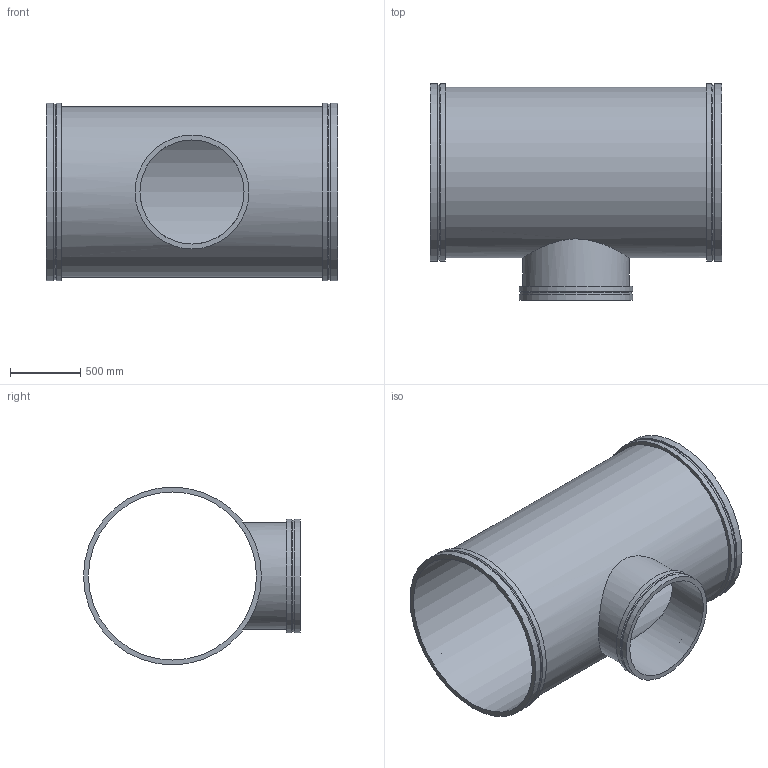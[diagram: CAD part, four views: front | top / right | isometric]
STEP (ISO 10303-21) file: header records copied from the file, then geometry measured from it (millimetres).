
FILE_DESCRIPTION(/* description */ ('VIC REDUCING TEE No W025 VR','CAx-IF Rec.Pracs.---Representation and Presentation of Product Manufacturing Information (PMI)---4.0---2014-10-13'),/* implementation_level */ '2;1');
FILE_NAME(/* name */ 'C:\Users\kkamble\AppData\Roaming\Autodesk\ApplicationPlugins\Back Up\Victaulic_Vic-Ring_Tee Reducing_No W25 VR (AGR)\Victaulic_Vic-Ring_Tee Reducing_No W25 VR (AGR)_48.0x30.0 (1200x750).stp',/* time_stamp */ '2020-09-10T11:57:10+05:00',/* author */ ('mchristi'),/* organization */ ('Victaulic'),/* preprocessor_version */ 'ST-DEVELOPER v17.2',/* originating_system */ 'Autodesk Inventor 2019',/* authorisation */ '');
FILE_SCHEMA (('AP242_MANAGED_MODEL_BASED_3D_ENGINEERING_MIM_LF { 1 0 10303 442 1 1 4 }'));
Length unit declared in the file: inch
Products named in the file (1): W25 VR-48.0x30.0
Bounding box: 2082.8 x 1549.4 x 1270 mm (x, y, z)
Volume: 105794883.7 mm3; surface area: 17439532.8 mm2
Topology: 1 solids, 1 shells, 25 faces, 68 edges, 52 vertices
Faces by surface type: cylinder 13, plane 9, cone 3
Full cylindrical faces by diameter (mm): 742.95 x1, 762 x1, 798.322 x1, 812.8 x2, 1200.15 x1, 1219.2 x1, 1254.125 x2, 1270 x4
Entity records: 1267 total; most frequent: CARTESIAN_POINT 423, DIRECTION 190, ORIENTED_EDGE 136, AXIS2_PLACEMENT_3D 87, EDGE_CURVE 68, VERTEX_POINT 52, CIRCLE 48, EDGE_LOOP 36
